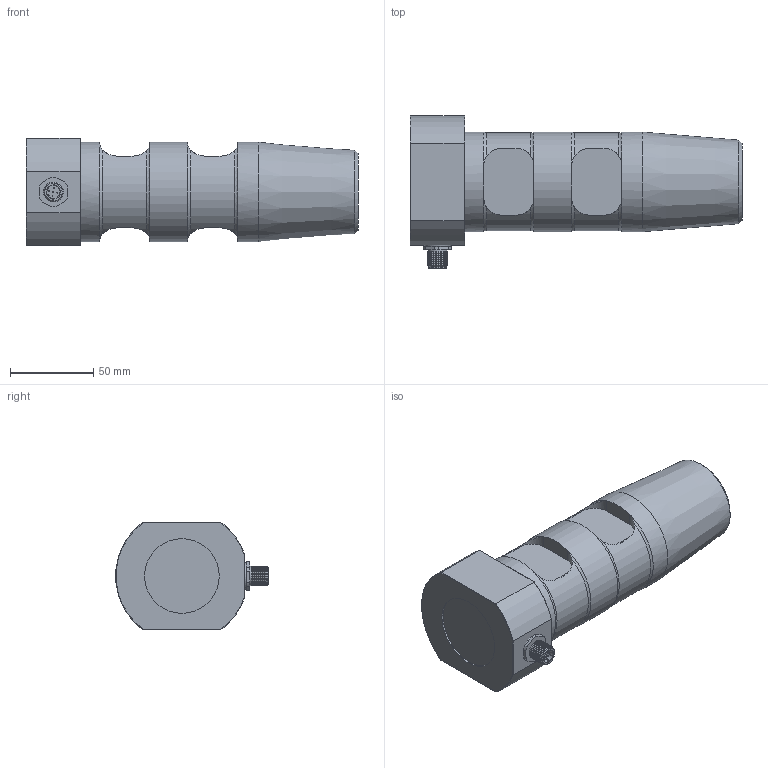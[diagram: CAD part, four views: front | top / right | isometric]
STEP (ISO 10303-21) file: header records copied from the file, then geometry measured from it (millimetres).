
FILE_DESCRIPTION(/* description */ ('Alibre Inc.'),/* implementation_level */ '2;1');
FILE_NAME(/* name */ 'export-115C2FF1-653C-4A0D-9CD7-F9B1B8B7BC35',/* time_stamp */ '2020-03-18T11:59:09+01:00',/* author */ (''),/* organization */ (''),/* preprocessor_version */ 'ST-DEVELOPER v17',/* originating_system */ 'Alibre',/* authorisation */ '');
FILE_SCHEMA (('CONFIG_CONTROL_DESIGN'));
Length unit declared in the file: centimetre
Bounding box: 200 x 91.85 x 65 mm (x, y, z)
Volume: 683899.9 mm3; surface area: 203200.8 mm2
Topology: 7 solids, 8 shells, 237 faces, 517 edges, 303 vertices
Faces by surface type: cylinder 79, cone 77, plane 71, torus 10
Full cylindrical faces by diameter (mm): 0.5 x10, 8 x2, 10 x1, 11 x1, 11.5 x1, 12 x21, 13 x2, 14.5 x1, 45 x1, 60 x3
Entity records: 5806 total; most frequent: CARTESIAN_POINT 1366, ORIENTED_EDGE 826, DIRECTION 730, EDGE_CURVE 407, EDGE_LOOP 351, FACE_BOUND 351, AXIS2_PLACEMENT_3D 340, VERTEX_POINT 288
